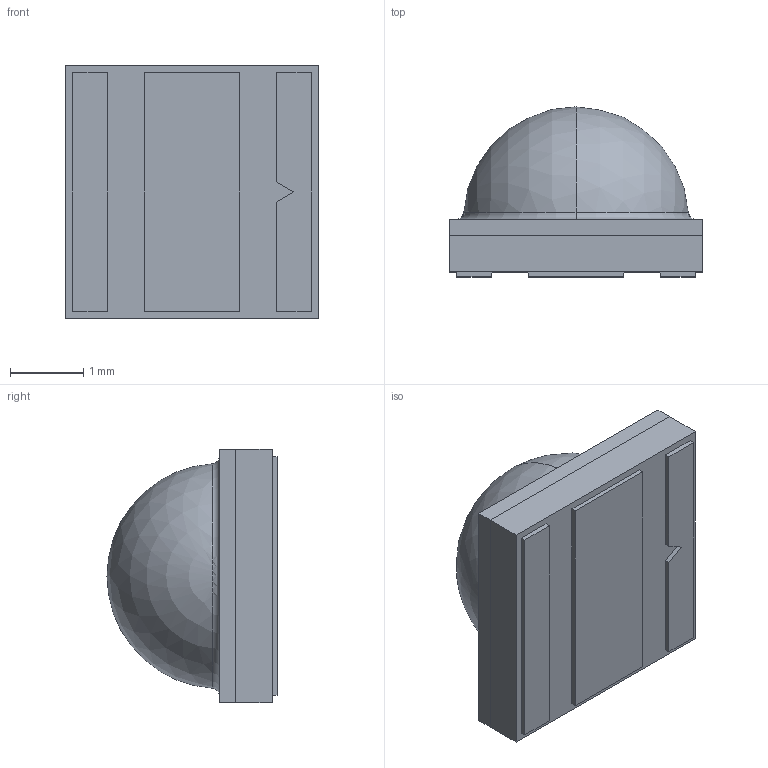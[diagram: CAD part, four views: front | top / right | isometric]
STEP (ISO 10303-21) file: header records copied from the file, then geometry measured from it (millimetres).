
FILE_DESCRIPTION (( 'STEP AP203' ), '1' );
FILE_NAME ('TF1&TF2&TG2-Àä°×.STEP', '2024-01-18T06:41:12', ( '' ), ( '' ), 'SwSTEP 2.0', 'SolidWorks 2016', '' );
FILE_SCHEMA (( 'CONFIG_CONTROL_DESIGN' ));
Length unit declared in the file: millimetre
Products named in the file (1): TF1&TF2&TG2-濮啞
Bounding box: 3.45 x 2.31 x 3.45 mm (x, y, z)
Volume: 16.6 mm3; surface area: 66.1 mm2
Topology: 2 solids, 2 shells, 34 faces, 77 edges, 51 vertices
Faces by surface type: plane 30, torus 2, sphere 2
Entity records: 1016 total; most frequent: CARTESIAN_POINT 163, DIRECTION 155, ORIENTED_EDGE 154, EDGE_CURVE 77, LINE 69, VECTOR 69, VERTEX_POINT 51, AXIS2_PLACEMENT_3D 43
